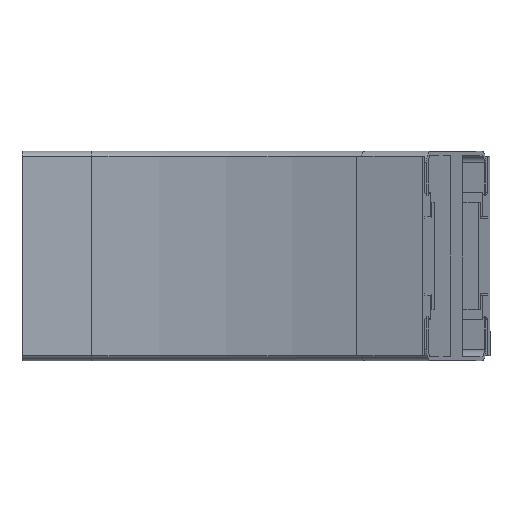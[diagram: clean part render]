
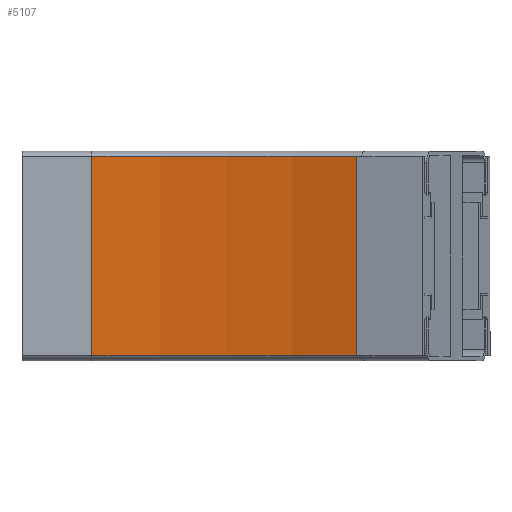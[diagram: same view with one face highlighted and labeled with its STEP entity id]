
A CAD part, front view. The second image highlights one B-rep face of the part: STEP entity #5107.
In plain terms, the highlighted cylindrical face has radius 443.5 mm (diameter 887 mm), a partial arc.
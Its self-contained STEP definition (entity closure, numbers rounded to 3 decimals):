
#113 = DIRECTION ( 'NONE',  ( 0., 0., 1. ) ) ;
#183 = VECTOR ( 'NONE', #416, 1000. ) ;
#416 = DIRECTION ( 'NONE',  ( 0., 0., -1. ) ) ;
#754 = EDGE_CURVE ( 'NONE', #4503, #1726, #3031, .T. ) ;
#817 = VECTOR ( 'NONE', #1750, 1000. ) ;
#875 = CARTESIAN_POINT ( 'NONE',  ( 191.686, -83.246, -57.15 ) ) ;
#941 = DIRECTION ( 'NONE',  ( 1., 0., 0. ) ) ;
#1225 = ORIENTED_EDGE ( 'NONE', *, *, #754, .T. ) ;
#1305 = EDGE_CURVE ( 'NONE', #2826, #4503, #2484, .T. ) ;
#1643 = CARTESIAN_POINT ( 'NONE',  ( 40., -56.5, 0. ) ) ;
#1726 = VERTEX_POINT ( 'NONE', #3700 ) ;
#1750 = DIRECTION ( 'NONE',  ( 0., 0., 1. ) ) ;
#1939 = CARTESIAN_POINT ( 'NONE',  ( 191.686, -83.246, -57.15 ) ) ;
#2038 = CYLINDRICAL_SURFACE ( 'NONE', #4221, 443.5 ) ;
#2042 = ORIENTED_EDGE ( 'NONE', *, *, #4883, .F. ) ;
#2106 = LINE ( 'NONE', #875, #817 ) ;
#2338 = AXIS2_PLACEMENT_3D ( 'NONE', #4798, #3118, #941 ) ;
#2365 = FACE_OUTER_BOUND ( 'NONE', #5062, .T. ) ;
#2484 = CIRCLE ( 'NONE', #3052, 443.5 ) ;
#2826 = VERTEX_POINT ( 'NONE', #3894 ) ;
#3031 = LINE ( 'NONE', #1643, #183 ) ;
#3052 = AXIS2_PLACEMENT_3D ( 'NONE', #4573, #4556, #4964 ) ;
#3118 = DIRECTION ( 'NONE',  ( 0., 0., 1. ) ) ;
#3217 = CARTESIAN_POINT ( 'NONE',  ( 40., -56.5, 57.15 ) ) ;
#3232 = ORIENTED_EDGE ( 'NONE', *, *, #1305, .T. ) ;
#3401 = CIRCLE ( 'NONE', #2338, 443.5 ) ;
#3700 = CARTESIAN_POINT ( 'NONE',  ( 40., -56.5, -57.15 ) ) ;
#3894 = CARTESIAN_POINT ( 'NONE',  ( 191.686, -83.246, 57.15 ) ) ;
#4221 = AXIS2_PLACEMENT_3D ( 'NONE', #4500, #113, #4540 ) ;
#4497 = VERTEX_POINT ( 'NONE', #1939 ) ;
#4500 = CARTESIAN_POINT ( 'NONE',  ( 40., -500., 0. ) ) ;
#4503 = VERTEX_POINT ( 'NONE', #3217 ) ;
#4540 = DIRECTION ( 'NONE',  ( 1., 0., 0. ) ) ;
#4556 = DIRECTION ( 'NONE',  ( 0., 0., 1. ) ) ;
#4573 = CARTESIAN_POINT ( 'NONE',  ( 40., -500., 57.15 ) ) ;
#4798 = CARTESIAN_POINT ( 'NONE',  ( 40., -500., -57.15 ) ) ;
#4804 = EDGE_CURVE ( 'NONE', #4497, #2826, #2106, .T. ) ;
#4883 = EDGE_CURVE ( 'NONE', #4497, #1726, #3401, .T. ) ;
#4964 = DIRECTION ( 'NONE',  ( 1., 0., 0. ) ) ;
#5062 = EDGE_LOOP ( 'NONE', ( #1225, #2042, #5457, #3232 ) ) ;
#5107 = ADVANCED_FACE ( 'NONE', ( #2365 ), #2038, .F. ) ;
#5457 = ORIENTED_EDGE ( 'NONE', *, *, #4804, .T. ) ;
